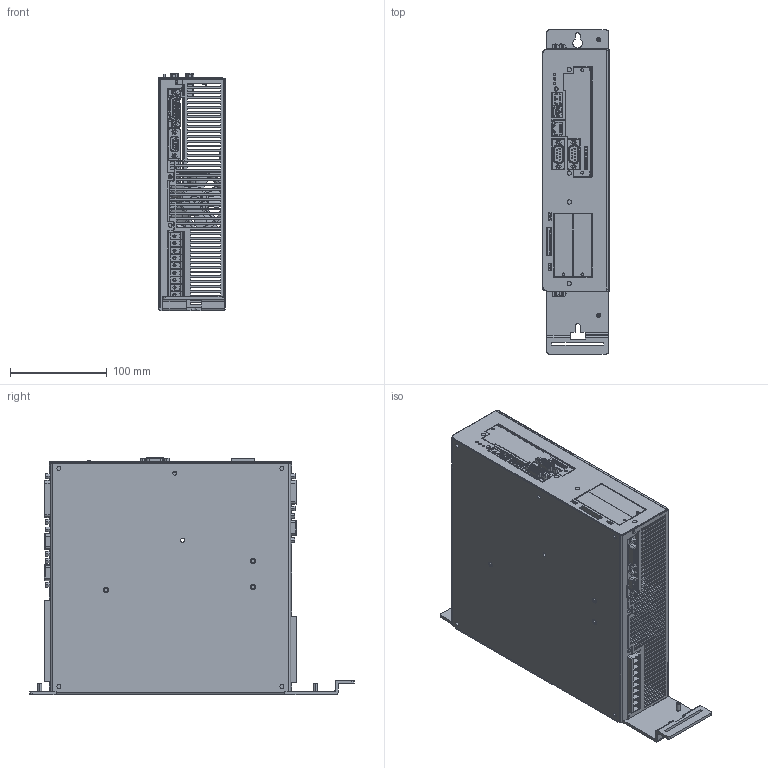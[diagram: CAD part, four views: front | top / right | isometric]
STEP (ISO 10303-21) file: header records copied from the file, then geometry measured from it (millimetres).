
FILE_DESCRIPTION((''),' ');
FILE_NAME('ARS2305-USB_3D.stp',' ',('Manfred Oelkers'),('Metronix'),' ','ACIS 14.0',' ');
FILE_SCHEMA(('automotive_design'));
Length unit declared in the file: inch
Products named in the file (69): ACIS Solid_41; ACIS Solid_42; ACIS Solid_43; ACIS Solid_44; ACIS Solid_58; ACIS Solid_60; ACIS Solid_61; ACIS Solid_62; ACIS Solid_63; ACIS Solid_64; ACIS Solid_65; ACIS Solid_66; ACIS Solid_67; ACIS Solid_68; ACIS Solid_69; ACIS Solid_70; ACIS Solid_71; ACIS Solid_72; ACIS Solid_509; ACIS Solid_510; ACIS Solid_511; ACIS Solid_512; ACIS Solid_513; ACIS Solid_514; ACIS Solid_515; ACIS Solid_516; ACIS Solid_517; ACIS Solid_518; ACIS Solid_578; ACIS Solid_2431; ACIS Solid_4652; ACIS Solid_4675; ACIS Solid_4698; ACIS Solid_4742; ACIS Solid_6906; ACIS Solid_6929; ACIS Solid_6952; ACIS Solid_6996; ACIS Solid_7020; ACIS Solid_7046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
Bounding box: 69 x 334.5 x 245.05 mm (x, y, z)
Volume: 444563.7 mm3; surface area: 467285 mm2
Topology: 68 solids, 71 shells, 8589 faces, 23061 edges, 15110 vertices
Faces by surface type: plane 5964, cylinder 1724, cone 339, bspline 275, torus 207, sphere 80
Entity records: 380925 total; most frequent: CARTESIAN_POINT 90438, ORIENTED_EDGE 46034, DIRECTION 42481, EDGE_CURVE 23017, LINE 17315, VECTOR 17315, VERTEX_POINT 15110, AXIS2_PLACEMENT_3D 12583
